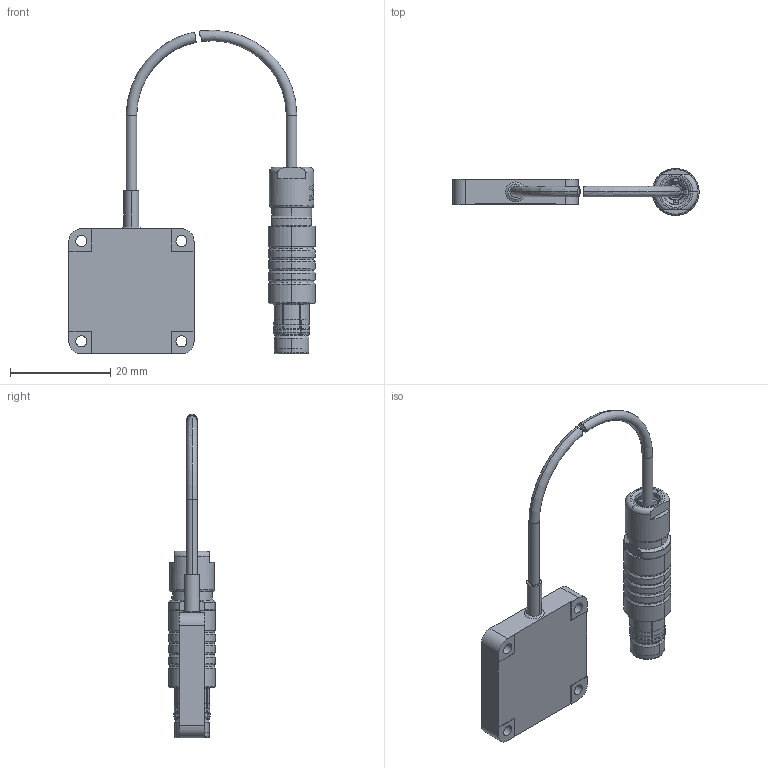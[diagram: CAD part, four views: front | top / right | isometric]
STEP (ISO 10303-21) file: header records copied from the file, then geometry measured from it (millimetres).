
FILE_DESCRIPTION((''),'2;1');
FILE_NAME('0000104091_ASM','2016-01-26T',('11000065'),(''),'PRO/ENGINEER BY PARAMETRIC TECHNOLOGY CORPORATION, 2013230','PRO/ENGINEER BY PARAMETRIC TECHNOLOGY CORPORATION, 2013230','');
FILE_SCHEMA(('AUTOMOTIVE_DESIGN { 1 0 10303 214 1 1 1 1 }'));
Length unit declared in the file: millimetre
Products named in the file (6): 0000104092; 0000104113; 0000044782; 0000104115; 0000104116; 0000104091_ASM
Assembly tree (5 placements, depth 2):
  0000104091_ASM
    0000104092
    0000104113
    0000044782
    0000104115
    0000104116
Bounding box: 49.2 x 9.4 x 64.64 mm (x, y, z)
Volume: 4669.2 mm3; surface area: 8549.2 mm2
Topology: 7 solids, 9 shells, 595 faces, 1551 edges, 1010 vertices
Faces by surface type: cylinder 221, plane 186, cone 111, torus 63, extrusion 10, bspline 2, sphere 2
Entity records: 25032 total; most frequent: CARTESIAN_POINT 5301, DIRECTION 3167, ORIENTED_EDGE 3094, EDGE_CURVE 1547, PRESENTATION_STYLE_ASSIGNMENT 1529, STYLED_ITEM 1529, CURVE_STYLE 1523, AXIS2_PLACEMENT_3D 1285
